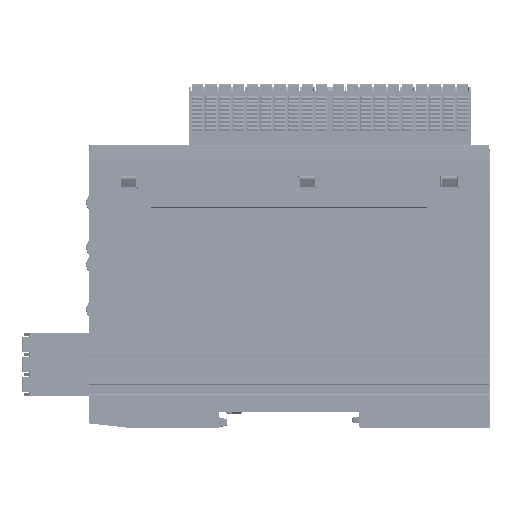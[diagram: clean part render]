
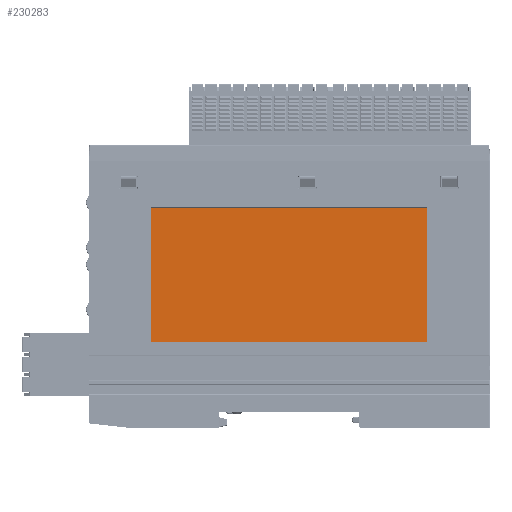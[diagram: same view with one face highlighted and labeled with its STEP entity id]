
A CAD part, left-side view. The second image highlights one B-rep face of the part: STEP entity #230283.
In plain terms, the highlighted planar face has unit normal (-1, 0, 0).
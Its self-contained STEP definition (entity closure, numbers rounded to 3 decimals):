
#59809=DIRECTION('',(0.,-1.,0.));
#59810=VECTOR('',#59809,70.);
#59811=CARTESIAN_POINT('',(-12.3,35.,-46.));
#59812=LINE('',#59811,#59810);
#59821=DIRECTION('',(0.,0.,-1.));
#59822=VECTOR('',#59821,34.);
#59823=CARTESIAN_POINT('',(-12.3,35.,-12.));
#59824=LINE('',#59823,#59822);
#59841=DIRECTION('',(0.,1.,0.));
#59842=VECTOR('',#59841,70.);
#59843=CARTESIAN_POINT('',(-12.3,-35.,-12.));
#59844=LINE('',#59843,#59842);
#59853=DIRECTION('',(0.,0.,1.));
#59854=VECTOR('',#59853,34.);
#59855=CARTESIAN_POINT('',(-12.3,-35.,-46.));
#59856=LINE('',#59855,#59854);
#118198=CARTESIAN_POINT('',(-12.3,35.,-46.));
#118199=VERTEX_POINT('',#118198);
#118200=CARTESIAN_POINT('',(-12.3,-35.,-46.));
#118201=VERTEX_POINT('',#118200);
#118202=CARTESIAN_POINT('',(-12.3,35.,-12.));
#118203=VERTEX_POINT('',#118202);
#118204=CARTESIAN_POINT('',(-12.3,-35.,-12.));
#118205=VERTEX_POINT('',#118204);
#230272=CARTESIAN_POINT('',(-12.3,0.,0.));
#230273=DIRECTION('',(-1.,0.,0.));
#230274=DIRECTION('',(0.,0.,1.));
#230275=AXIS2_PLACEMENT_3D('',#230272,#230273,#230274);
#230276=PLANE('',#230275);
#230277=ORIENTED_EDGE('',*,*,#230211,.F.);
#230278=ORIENTED_EDGE('',*,*,#230227,.F.);
#230279=ORIENTED_EDGE('',*,*,#230253,.F.);
#230280=ORIENTED_EDGE('',*,*,#230266,.F.);
#230281=EDGE_LOOP('',(#230277,#230278,#230279,#230280));
#230282=FACE_OUTER_BOUND('',#230281,.F.);
#230283=ADVANCED_FACE('',(#230282),#230276,.T.);
#230211=EDGE_CURVE('',#118199,#118201,#59812,.T.);
#230227=EDGE_CURVE('',#118203,#118199,#59824,.T.);
#230253=EDGE_CURVE('',#118205,#118203,#59844,.T.);
#230266=EDGE_CURVE('',#118201,#118205,#59856,.T.);
